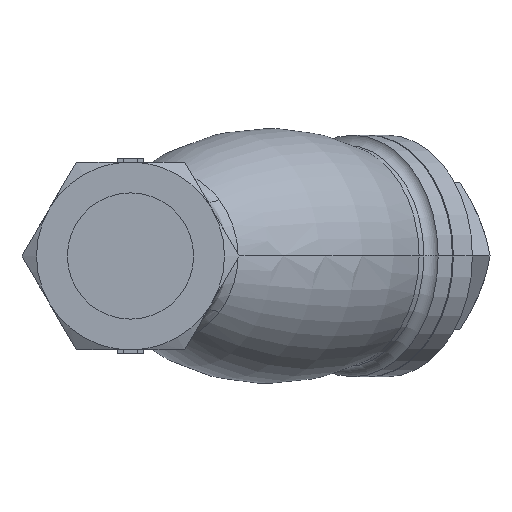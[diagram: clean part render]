
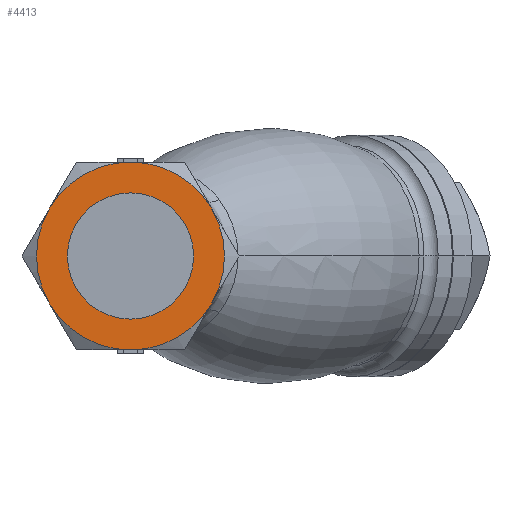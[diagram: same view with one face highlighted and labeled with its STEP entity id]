
A CAD part, left-side view. The second image highlights one B-rep face of the part: STEP entity #4413.
In plain terms, the highlighted planar face has unit normal (-1, 0, 0).
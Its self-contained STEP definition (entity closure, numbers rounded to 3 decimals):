
#85 = EDGE_LOOP ( 'NONE', ( #3561, #3865, #2074, #3475, #3997, #2325 ) ) ;
#131 = DIRECTION ( 'NONE',  ( 0., 0., 1. ) ) ;
#177 = DIRECTION ( 'NONE',  ( 0., 0., 1. ) ) ;
#203 = CARTESIAN_POINT ( 'NONE',  ( -26., 0., 0. ) ) ;
#374 = CIRCLE ( 'NONE', #2476, 14. ) ;
#384 = CARTESIAN_POINT ( 'NONE',  ( -26., 0., 0. ) ) ;
#489 = CARTESIAN_POINT ( 'NONE',  ( -26., 0., 0. ) ) ;
#557 = CARTESIAN_POINT ( 'NONE',  ( -26., 0., 0. ) ) ;
#574 = DIRECTION ( 'NONE',  ( 0., 0., 1. ) ) ;
#595 = CARTESIAN_POINT ( 'NONE',  ( -26., 0., -9.4 ) ) ;
#656 = CARTESIAN_POINT ( 'NONE',  ( -26., 0., 0. ) ) ;
#783 = CARTESIAN_POINT ( 'NONE',  ( -26., 12.124, -7. ) ) ;
#820 = DIRECTION ( 'NONE',  ( 0., 0., -1. ) ) ;
#957 = AXIS2_PLACEMENT_3D ( 'NONE', #203, #3275, #177 ) ;
#980 = VERTEX_POINT ( 'NONE', #2712 ) ;
#1001 = EDGE_CURVE ( 'NONE', #980, #1202, #374, .T. ) ;
#1091 = ORIENTED_EDGE ( 'NONE', *, *, #1714, .F. ) ;
#1199 = CIRCLE ( 'NONE', #3614, 14. ) ;
#1201 = CARTESIAN_POINT ( 'NONE',  ( -26., 0., 14. ) ) ;
#1202 = VERTEX_POINT ( 'NONE', #783 ) ;
#1302 = CIRCLE ( 'NONE', #3208, 14. ) ;
#1336 = AXIS2_PLACEMENT_3D ( 'NONE', #4431, #3762, #2040 ) ;
#1365 = DIRECTION ( 'NONE',  ( 1., 0., 0. ) ) ;
#1372 = EDGE_CURVE ( 'NONE', #2176, #1673, #1566, .T. ) ;
#1566 = CIRCLE ( 'NONE', #1634, 14. ) ;
#1569 = DIRECTION ( 'NONE',  ( -1., 0., 0. ) ) ;
#1629 = DIRECTION ( 'NONE',  ( 0., 0., -1. ) ) ;
#1634 = AXIS2_PLACEMENT_3D ( 'NONE', #384, #3881, #820 ) ;
#1673 = VERTEX_POINT ( 'NONE', #2240 ) ;
#1688 = FACE_BOUND ( 'NONE', #1990, .T. ) ;
#1714 = EDGE_CURVE ( 'NONE', #3289, #2085, #4168, .T. ) ;
#1858 = CIRCLE ( 'NONE', #3908, 9.4 ) ;
#1920 = CARTESIAN_POINT ( 'NONE',  ( -26., -12.124, -7. ) ) ;
#1939 = AXIS2_PLACEMENT_3D ( 'NONE', #656, #1365, #1629 ) ;
#1962 = CARTESIAN_POINT ( 'NONE',  ( -26., 12.124, 7. ) ) ;
#1978 = EDGE_CURVE ( 'NONE', #1996, #980, #3140, .T. ) ;
#1990 = EDGE_LOOP ( 'NONE', ( #1091, #3651 ) ) ;
#1996 = VERTEX_POINT ( 'NONE', #1920 ) ;
#1997 = CARTESIAN_POINT ( 'NONE',  ( -26., 0., 0. ) ) ;
#2040 = DIRECTION ( 'NONE',  ( 0., 0., -1. ) ) ;
#2072 = CIRCLE ( 'NONE', #1336, 14. ) ;
#2074 = ORIENTED_EDGE ( 'NONE', *, *, #4435, .F. ) ;
#2085 = VERTEX_POINT ( 'NONE', #595 ) ;
#2176 = VERTEX_POINT ( 'NONE', #1201 ) ;
#2192 = EDGE_CURVE ( 'NONE', #2176, #2206, #1199, .T. ) ;
#2206 = VERTEX_POINT ( 'NONE', #1962 ) ;
#2240 = CARTESIAN_POINT ( 'NONE',  ( -26., -12.124, 7. ) ) ;
#2282 = DIRECTION ( 'NONE',  ( 1., 0., 0. ) ) ;
#2325 = ORIENTED_EDGE ( 'NONE', *, *, #3225, .F. ) ;
#2476 = AXIS2_PLACEMENT_3D ( 'NONE', #1997, #4490, #2735 ) ;
#2712 = CARTESIAN_POINT ( 'NONE',  ( -26., 0., -14. ) ) ;
#2735 = DIRECTION ( 'NONE',  ( 0., 0., -1. ) ) ;
#2953 = CARTESIAN_POINT ( 'NONE',  ( -26., 0., 0. ) ) ;
#3140 = CIRCLE ( 'NONE', #4107, 14. ) ;
#3208 = AXIS2_PLACEMENT_3D ( 'NONE', #557, #4370, #4057 ) ;
#3225 = EDGE_CURVE ( 'NONE', #1202, #2206, #1302, .T. ) ;
#3275 = DIRECTION ( 'NONE',  ( -1., 0., 0. ) ) ;
#3289 = VERTEX_POINT ( 'NONE', #3709 ) ;
#3319 = CARTESIAN_POINT ( 'NONE',  ( -26., 0., 0. ) ) ;
#3422 = FACE_OUTER_BOUND ( 'NONE', #85, .T. ) ;
#3475 = ORIENTED_EDGE ( 'NONE', *, *, #1372, .F. ) ;
#3561 = ORIENTED_EDGE ( 'NONE', *, *, #1001, .F. ) ;
#3600 = DIRECTION ( 'NONE',  ( -1., 0., 0. ) ) ;
#3614 = AXIS2_PLACEMENT_3D ( 'NONE', #3319, #1569, #574 ) ;
#3651 = ORIENTED_EDGE ( 'NONE', *, *, #4492, .F. ) ;
#3687 = DIRECTION ( 'NONE',  ( 0., 0., -1. ) ) ;
#3709 = CARTESIAN_POINT ( 'NONE',  ( -26., 0., 9.4 ) ) ;
#3762 = DIRECTION ( 'NONE',  ( 1., 0., 0. ) ) ;
#3804 = PLANE ( 'NONE',  #1939 ) ;
#3865 = ORIENTED_EDGE ( 'NONE', *, *, #1978, .F. ) ;
#3881 = DIRECTION ( 'NONE',  ( 1., 0., 0. ) ) ;
#3908 = AXIS2_PLACEMENT_3D ( 'NONE', #2953, #3600, #131 ) ;
#3997 = ORIENTED_EDGE ( 'NONE', *, *, #2192, .T. ) ;
#4057 = DIRECTION ( 'NONE',  ( 0., 0., -1. ) ) ;
#4107 = AXIS2_PLACEMENT_3D ( 'NONE', #489, #2282, #3687 ) ;
#4168 = CIRCLE ( 'NONE', #957, 9.4 ) ;
#4370 = DIRECTION ( 'NONE',  ( 1., 0., 0. ) ) ;
#4413 = ADVANCED_FACE ( 'NONE', ( #1688, #3422 ), #3804, .F. ) ;
#4431 = CARTESIAN_POINT ( 'NONE',  ( -26., 0., 0. ) ) ;
#4435 = EDGE_CURVE ( 'NONE', #1673, #1996, #2072, .T. ) ;
#4490 = DIRECTION ( 'NONE',  ( 1., 0., 0. ) ) ;
#4492 = EDGE_CURVE ( 'NONE', #2085, #3289, #1858, .T. ) ;
